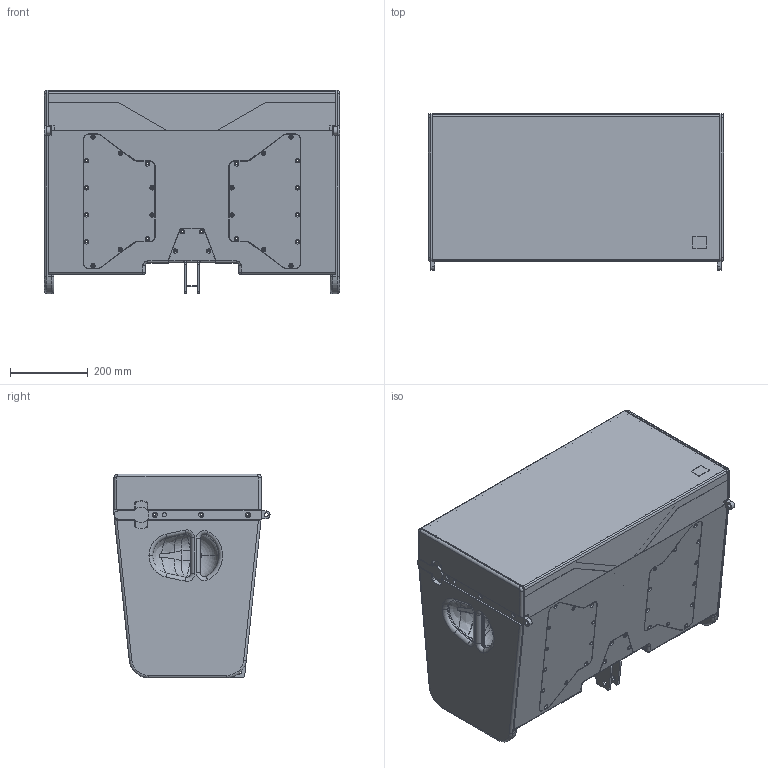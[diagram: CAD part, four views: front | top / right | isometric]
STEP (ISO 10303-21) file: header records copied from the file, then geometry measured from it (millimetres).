
FILE_DESCRIPTION (( 'STEP AP203' ), '1' );
FILE_NAME ('SEEBURG_Galeo-T.STEP', '2016-02-25T09:31:47', ( 'Michael Anter' ), ( 'SEEBURG acoustic line GmbH' ), 'SwSTEP 2.0', 'SolidWorks 2009', '' );
FILE_SCHEMA (( 'CONFIG_CONTROL_DESIGN' ));
Length unit declared in the file: millimetre
Products named in the file (1): SEEBURG_Galeo-T
Bounding box: 760 x 402 x 525 mm (x, y, z)
Volume: 17051515.3 mm3; surface area: 4309118.3 mm2
Topology: 45 solids, 45 shells, 2273 faces, 5981 edges, 3794 vertices
Faces by surface type: cylinder 981, plane 916, cone 200, torus 92, bspline 64, sphere 20
Entity records: 75492 total; most frequent: CARTESIAN_POINT 17109, DIRECTION 12561, ORIENTED_EDGE 11914, EDGE_CURVE 5957, AXIS2_PLACEMENT_3D 4534, VERTEX_POINT 3794, LINE 3493, VECTOR 3493
